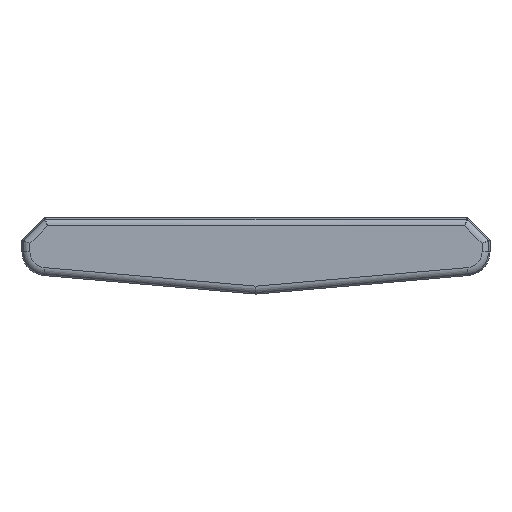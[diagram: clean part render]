
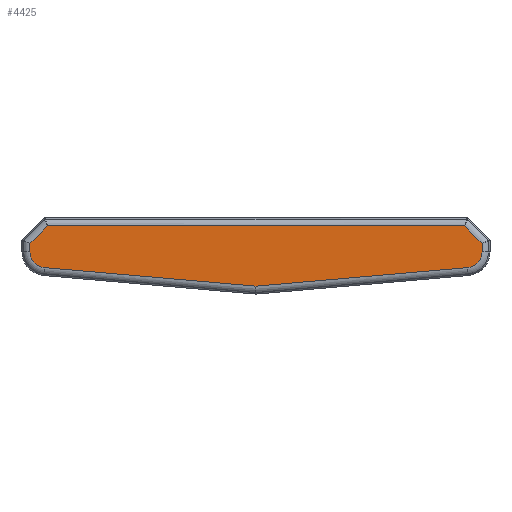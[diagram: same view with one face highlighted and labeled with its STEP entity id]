
A CAD part, front view. The second image highlights one B-rep face of the part: STEP entity #4425.
In plain terms, the highlighted planar face has unit normal (0, -1, 0).
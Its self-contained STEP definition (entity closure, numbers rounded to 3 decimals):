
#881 = CARTESIAN_POINT ( 'NONE',  ( -26.286, -273., -1. ) ) ;
#950 = DIRECTION ( 'NONE',  ( 0., 0., 1. ) ) ;
#951 = VECTOR ( 'NONE', #950, 1000. ) ;
#952 = LINE ( 'NONE', #954, #951 ) ;
#953 = CARTESIAN_POINT ( 'NONE',  ( 26.286, -273., -1. ) ) ;
#954 = CARTESIAN_POINT ( 'NONE',  ( 28.5, -273., -2.883 ) ) ;
#955 = DIRECTION ( 'NONE',  ( 0.996, 0., -0.087 ) ) ;
#956 = VECTOR ( 'NONE', #955, 1000. ) ;
#957 = CARTESIAN_POINT ( 'NONE',  ( 0.087, -273., -8.604 ) ) ;
#958 = LINE ( 'NONE', #957, #956 ) ;
#979 = CIRCLE ( 'NONE', #1032, 2. ) ;
#1011 = DIRECTION ( 'NONE',  ( -1., 0., 0. ) ) ;
#1012 = VECTOR ( 'NONE', #1011, 1000. ) ;
#1013 = CARTESIAN_POINT ( 'NONE',  ( -26.617, -273., -1. ) ) ;
#1014 = LINE ( 'NONE', #1013, #1012 ) ;
#1017 = DIRECTION ( 'NONE',  ( -1., 0., 0. ) ) ;
#1018 = DIRECTION ( 'NONE',  ( 0., -1., 0. ) ) ;
#1024 = DIRECTION ( 'NONE',  ( -0.707, 0., 0.707 ) ) ;
#1025 = VECTOR ( 'NONE', #1024, 1000. ) ;
#1031 = CARTESIAN_POINT ( 'NONE',  ( -26.5, -273., -4.27 ) ) ;
#1032 = AXIS2_PLACEMENT_3D ( 'NONE', #1031, #1018, #1017 ) ;
#1038 = CARTESIAN_POINT ( 'NONE',  ( -2.107, -273., 27.393 ) ) ;
#1039 = LINE ( 'NONE', #1038, #1025 ) ;
#1043 = DIRECTION ( 'NONE',  ( 0.996, 0., 0.087 ) ) ;
#1044 = VECTOR ( 'NONE', #1043, 1000. ) ;
#1045 = CARTESIAN_POINT ( 'NONE',  ( 26.674, -273., -6.262 ) ) ;
#1046 = LINE ( 'NONE', #1045, #1044 ) ;
#1049 = CARTESIAN_POINT ( 'NONE',  ( 26.674, -273., -6.262 ) ) ;
#1050 = DIRECTION ( 'NONE',  ( -1., 0., 0. ) ) ;
#1051 = DIRECTION ( 'NONE',  ( 0., -1., 0. ) ) ;
#1052 = CARTESIAN_POINT ( 'NONE',  ( -29.5, -273., 0. ) ) ;
#1053 = CARTESIAN_POINT ( 'NONE',  ( 28.5, -273., -4.27 ) ) ;
#1054 = CARTESIAN_POINT ( 'NONE',  ( 28.5, -273., -3.214 ) ) ;
#1056 = FACE_OUTER_BOUND ( 'NONE', #4361, .T. ) ;
#1057 = AXIS2_PLACEMENT_3D ( 'NONE', #1104, #1103, #1102 ) ;
#1058 = CARTESIAN_POINT ( 'NONE',  ( 0., -273., -8.596 ) ) ;
#1059 = CARTESIAN_POINT ( 'NONE',  ( -26.674, -273., -6.262 ) ) ;
#1060 = DIRECTION ( 'NONE',  ( 0., 0., -1. ) ) ;
#1061 = VECTOR ( 'NONE', #1060, 1000. ) ;
#1062 = LINE ( 'NONE', #1065, #1061 ) ;
#1063 = CARTESIAN_POINT ( 'NONE',  ( -28.5, -273., -3.214 ) ) ;
#1064 = CARTESIAN_POINT ( 'NONE',  ( -28.5, -273., -4.27 ) ) ;
#1065 = CARTESIAN_POINT ( 'NONE',  ( -28.5, -273., -4.27 ) ) ;
#1067 = DIRECTION ( 'NONE',  ( -0.707, 0., -0.707 ) ) ;
#1068 = VECTOR ( 'NONE', #1067, 1000. ) ;
#1069 = CARTESIAN_POINT ( 'NONE',  ( -27.393, -273., -2.107 ) ) ;
#1070 = LINE ( 'NONE', #1069, #1068 ) ;
#1071 = PLANE ( 'NONE',  #1075 ) ;
#1075 = AXIS2_PLACEMENT_3D ( 'NONE', #1052, #1051, #1050 ) ;
#1102 = DIRECTION ( 'NONE',  ( -1., 0., 0. ) ) ;
#1103 = DIRECTION ( 'NONE',  ( 0., -1., 0. ) ) ;
#1104 = CARTESIAN_POINT ( 'NONE',  ( 26.5, -273., -4.27 ) ) ;
#1106 = CIRCLE ( 'NONE', #1057, 2. ) ;
#4359 = VERTEX_POINT ( 'NONE', #881 ) ;
#4361 = EDGE_LOOP ( 'NONE', ( #4374, #4430, #4370, #4411, #4421, #4410, #4418, #4415, #4399 ) ) ;
#4366 = EDGE_CURVE ( 'NONE', #4423, #4424, #958, .T. ) ;
#4368 = EDGE_CURVE ( 'NONE', #4426, #4432, #952, .T. ) ;
#4370 = ORIENTED_EDGE ( 'NONE', *, *, #4431, .T. ) ;
#4374 = ORIENTED_EDGE ( 'NONE', *, *, #4366, .T. ) ;
#4376 = VERTEX_POINT ( 'NONE', #953 ) ;
#4399 = ORIENTED_EDGE ( 'NONE', *, *, #4413, .T. ) ;
#4410 = ORIENTED_EDGE ( 'NONE', *, *, #4414, .T. ) ;
#4411 = ORIENTED_EDGE ( 'NONE', *, *, #4368, .T. ) ;
#4412 = EDGE_CURVE ( 'NONE', #4432, #4376, #1039, .T. ) ;
#4413 = EDGE_CURVE ( 'NONE', #4428, #4423, #979, .T. ) ;
#4414 = EDGE_CURVE ( 'NONE', #4376, #4359, #1014, .T. ) ;
#4415 = ORIENTED_EDGE ( 'NONE', *, *, #4419, .T. ) ;
#4416 = EDGE_CURVE ( 'NONE', #4359, #4420, #1070, .T. ) ;
#4418 = ORIENTED_EDGE ( 'NONE', *, *, #4416, .T. ) ;
#4419 = EDGE_CURVE ( 'NONE', #4420, #4428, #1062, .T. ) ;
#4420 = VERTEX_POINT ( 'NONE', #1063 ) ;
#4421 = ORIENTED_EDGE ( 'NONE', *, *, #4412, .T. ) ;
#4423 = VERTEX_POINT ( 'NONE', #1059 ) ;
#4424 = VERTEX_POINT ( 'NONE', #1058 ) ;
#4425 = ADVANCED_FACE ( 'NONE', ( #1056 ), #1071, .T. ) ;
#4426 = VERTEX_POINT ( 'NONE', #1053 ) ;
#4427 = EDGE_CURVE ( 'NONE', #4424, #4429, #1046, .T. ) ;
#4428 = VERTEX_POINT ( 'NONE', #1064 ) ;
#4429 = VERTEX_POINT ( 'NONE', #1049 ) ;
#4430 = ORIENTED_EDGE ( 'NONE', *, *, #4427, .T. ) ;
#4431 = EDGE_CURVE ( 'NONE', #4429, #4426, #1106, .T. ) ;
#4432 = VERTEX_POINT ( 'NONE', #1054 ) ;
